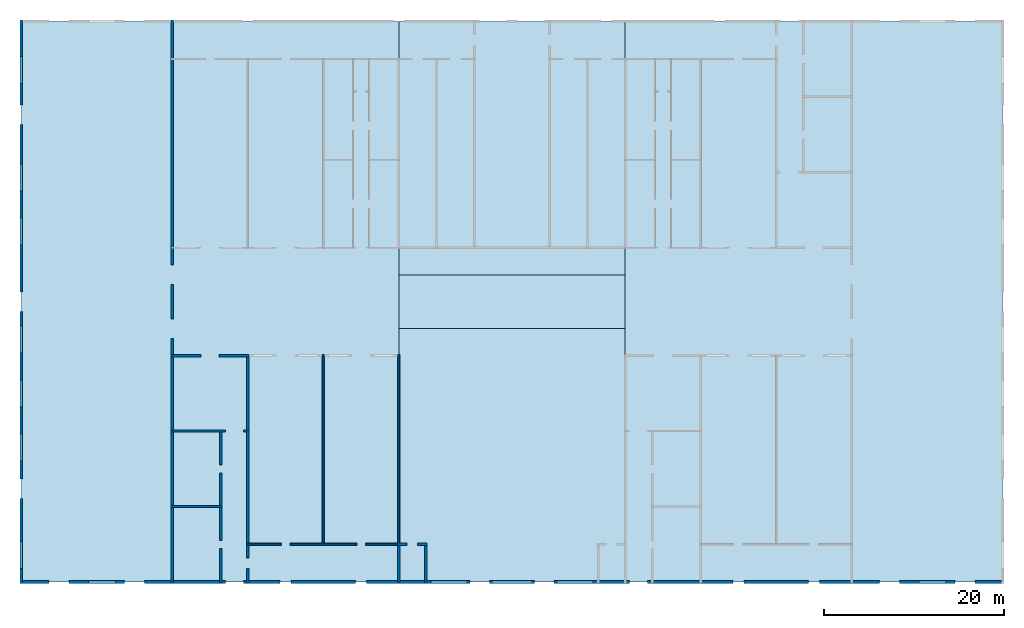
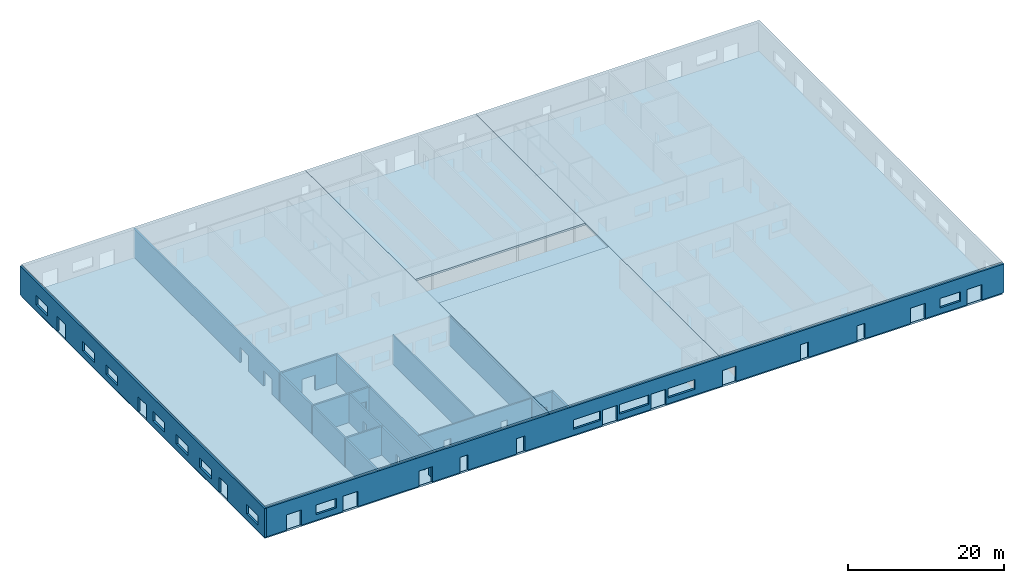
# One storey, part 1 of 3: 14 walls, 5 slabs, 52 openings.
"""IFC4 building model written with IfcOpenShell, lengths in millimetres."""

from ifc_helpers import new_model, si_unit, frame, origin_with_axes, place, context, subcontext, project, spatial, indexed_curve, outline, extrude, type_object, element, save


model = new_model("IFC4")

# Units and contexts
model_context = context("Model", 3, precision=1e-05, world=origin_with_axes())
body_context = subcontext(model_context, "Body", "Model", "MODEL_VIEW")
ifc_project = project(units=[si_unit("AREAUNIT", "SQUARE_METRE"), si_unit("VOLUMEUNIT", "CUBIC_METRE"), si_unit("LENGTHUNIT", "METRE", prefix="MILLI")], contexts=[model_context])

# Site, building, storey
site = spatial("IfcSite", under=ifc_project, Name="PIN 00000000 (sample)")
building = spatial("IfcBuilding", under=site, Name="Sample Shopping Mall")
storey = spatial("IfcBuildingStorey", under=building, Name="Ground Floor", Elevation=0.0)

# Slabs
slab_1_placement = place(None, frame((0.0, 0.0, -300.0), z_axis=(0.0, 0.0, 1.0), x_axis=(1.0, 0.0, 0.0)))
element("IfcSlab", 1, at=slab_1_placement, inside=storey, Name="Ground slab", PredefinedType="FLOOR", context=body_context, shape_type="SweptSolid", body=[
    extrude(outline(indexed_curve([(5400.0, 15600.0), (114599.99999999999, 15600.0), (114599.99999999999, 78000.0), (5400.0, 78000.0)])), None, (0.0, 0.0, 1.0), 300.0),
])
slab_2_placement = place(None, frame((0.0, 0.0, 4500.0), z_axis=(0.0, 0.0, 1.0), x_axis=(1.0, 0.0, 0.0)))
element("IfcSlab", 2, at=slab_2_placement, inside=storey, Name="Roof slab 0", PredefinedType="ROOF", context=body_context, shape_type="SweptSolid", body=[
    extrude(outline(indexed_curve([(5400.0, 15600.0), (47400.0, 15600.0), (47400.0, 78000.0), (5400.0, 78000.0)])), None, (0.0, 0.0, 1.0), 300.0),
])
slab_3_placement = place(None, frame((0.0, 0.0, 4500.0), z_axis=(0.0, 0.0, 1.0), x_axis=(1.0, 0.0, 0.0)))
element("IfcSlab", 3, at=slab_3_placement, inside=storey, Name="Roof slab 1", PredefinedType="ROOF", context=body_context, shape_type="SweptSolid", body=[
    extrude(outline(indexed_curve([(72600.0, 15600.0), (114599.99999999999, 15600.0), (114599.99999999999, 78000.0), (72600.0, 78000.0)])), None, (0.0, 0.0, 1.0), 300.0),
])
slab_4_placement = place(None, frame((0.0, 0.0, 4500.0), z_axis=(0.0, 0.0, 1.0), x_axis=(1.0, 0.0, 0.0)))
element("IfcSlab", 4, at=slab_4_placement, inside=storey, Name="Roof slab 2", PredefinedType="ROOF", context=body_context, shape_type="SweptSolid", body=[
    extrude(outline(indexed_curve([(47400.0, 15600.0), (72600.0, 15600.0), (72600.0, 43799.99999999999), (47400.0, 43799.99999999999)])), None, (0.0, 0.0, 1.0), 300.0),
])
slab_5_placement = place(None, frame((0.0, 0.0, 4500.0), z_axis=(0.0, 0.0, 1.0), x_axis=(1.0, 0.0, 0.0)))
element("IfcSlab", 5, at=slab_5_placement, inside=storey, Name="Roof slab 3", PredefinedType="ROOF", context=body_context, shape_type="SweptSolid", body=[
    extrude(outline(indexed_curve([(47400.0, 49799.99999999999), (72600.0, 49799.99999999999), (72600.0, 78000.0), (47400.0, 78000.0)])), None, (0.0, 0.0, 1.0), 300.0),
])

# Wall, openings
wall_type_1 = type_object("IfcWallType", Name="WT-300", PredefinedType="SOLIDWALL")
wall_1_placement = place(None, frame((5250.0, 15449.999999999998, 0.0), z_axis=(0.0, 0.0, 1.0), x_axis=(1.0, 0.0, 0.0)))
wall_1 = element("IfcWall", 6, at=wall_1_placement, inside=storey, type_object=wall_type_1, Name="W0", context=body_context, shape_type="SweptSolid", body=[
    extrude(outline(indexed_curve([(0.0, 0.0), (0.0, 300.0), (109499.99999999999, 300.0), (109499.99999999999, 0.0), (0.0, 0.0)], self_intersect=False)), origin_with_axes(), (0.0, 0.0, 1.0), 4500.0),
])
opening_1_placement = place(wall_1_placement, frame((50049.99999999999, -99.99999999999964, 0.0), z_axis=(0.0, 0.0, 1.0), x_axis=(1.0, 0.0, 0.0)))
element("IfcOpeningElement", 7, at=opening_1_placement, cuts=wall_1, Name="D03-opening", context=body_context, shape_type="SweptSolid", body=[
    extrude(outline(indexed_curve([(0.0, 0.0), (0.0, 500.0), (1100.0, 500.0), (1100.0, 0.0), (0.0, 0.0)], self_intersect=False)), origin_with_axes(), (0.0, 0.0, 1.0), 2400.0),
])
opening_2_placement = place(wall_1_placement, frame((51150.0, -99.99999999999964, 0.0), z_axis=(0.0, 0.0, 1.0), x_axis=(1.0, 0.0, 0.0)))
element("IfcOpeningElement", 8, at=opening_2_placement, cuts=wall_1, Name="-opening", context=body_context, shape_type="SweptSolid", body=[
    extrude(outline(indexed_curve([(0.0, 0.0), (0.0, 500.0), (1100.0, 500.0), (1100.0, 0.0), (0.0, 0.0)], self_intersect=False)), origin_with_axes(), (0.0, 0.0, 1.0), 2400.0),
])
opening_3_placement = place(wall_1_placement, frame((57250.0, -99.99999999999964, 0.0), z_axis=(0.0, 0.0, 1.0), x_axis=(1.0, 0.0, 0.0)))
element("IfcOpeningElement", 9, at=opening_3_placement, cuts=wall_1, Name="D04-opening", context=body_context, shape_type="SweptSolid", body=[
    extrude(outline(indexed_curve([(0.0, 0.0), (0.0, 500.0), (1100.0, 500.0), (1100.0, 0.0), (0.0, 0.0)], self_intersect=False)), origin_with_axes(), (0.0, 0.0, 1.0), 2400.0),
])
opening_4_placement = place(wall_1_placement, frame((58350.0, -99.99999999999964, 0.0), z_axis=(0.0, 0.0, 1.0), x_axis=(1.0, 0.0, 0.0)))
element("IfcOpeningElement", 10, at=opening_4_placement, cuts=wall_1, Name="-opening", context=body_context, shape_type="SweptSolid", body=[
    extrude(outline(indexed_curve([(0.0, 0.0), (0.0, 500.0), (1100.0, 500.0), (1100.0, 0.0), (0.0, 0.0)], self_intersect=False)), origin_with_axes(), (0.0, 0.0, 1.0), 2400.0),
])
opening_5_placement = place(wall_1_placement, frame((3250.0, -99.99999999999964, 0.0), z_axis=(0.0, 0.0, 1.0), x_axis=(1.0, 0.0, 0.0)))
element("IfcOpeningElement", 11, at=opening_5_placement, cuts=wall_1, Name="D10-opening", context=body_context, shape_type="SweptSolid", body=[
    extrude(outline(indexed_curve([(0.0, 0.0), (0.0, 500.0), (1100.0, 500.0), (1100.0, 0.0), (0.0, 0.0)], self_intersect=False)), origin_with_axes(), (0.0, 0.0, 1.0), 2400.0),
])
opening_6_placement = place(wall_1_placement, frame((4350.000000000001, -99.99999999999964, 0.0), z_axis=(0.0, 0.0, 1.0), x_axis=(1.0, 0.0, 0.0)))
element("IfcOpeningElement", 12, at=opening_6_placement, cuts=wall_1, Name="-opening", context=body_context, shape_type="SweptSolid", body=[
    extrude(outline(indexed_curve([(0.0, 0.0), (0.0, 500.0), (1100.0, 500.0), (1100.0, 0.0), (0.0, 0.0)], self_intersect=False)), origin_with_axes(), (0.0, 0.0, 1.0), 2400.0),
])
opening_7_placement = place(wall_1_placement, frame((11649.999999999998, -99.99999999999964, 0.0), z_axis=(0.0, 0.0, 1.0), x_axis=(1.0, 0.0, 0.0)))
element("IfcOpeningElement", 13, at=opening_7_placement, cuts=wall_1, Name="D11-opening", context=body_context, shape_type="SweptSolid", body=[
    extrude(outline(indexed_curve([(0.0, 0.0), (0.0, 500.0), (1100.0, 500.0), (1100.0, 0.0), (0.0, 0.0)], self_intersect=False)), origin_with_axes(), (0.0, 0.0, 1.0), 2400.0),
])
opening_8_placement = place(wall_1_placement, frame((12750.0, -99.99999999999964, 0.0), z_axis=(0.0, 0.0, 1.0), x_axis=(1.0, 0.0, 0.0)))
element("IfcOpeningElement", 14, at=opening_8_placement, cuts=wall_1, Name="-opening", context=body_context, shape_type="SweptSolid", body=[
    extrude(outline(indexed_curve([(0.0, 0.0), (0.0, 500.0), (1100.0, 500.0), (1100.0, 0.0), (0.0, 0.0)], self_intersect=False)), origin_with_axes(), (0.0, 0.0, 1.0), 2400.0),
])
opening_9_placement = place(wall_1_placement, frame((95650.0, -99.99999999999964, 0.0), z_axis=(0.0, 0.0, 1.0), x_axis=(1.0, 0.0, 0.0)))
element("IfcOpeningElement", 15, at=opening_9_placement, cuts=wall_1, Name="D19-opening", context=body_context, shape_type="SweptSolid", body=[
    extrude(outline(indexed_curve([(0.0, 0.0), (0.0, 500.0), (1100.0, 500.0), (1100.0, 0.0), (0.0, 0.0)], self_intersect=False)), origin_with_axes(), (0.0, 0.0, 1.0), 2400.0),
])
opening_10_placement = place(wall_1_placement, frame((96750.0, -99.99999999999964, 0.0), z_axis=(0.0, 0.0, 1.0), x_axis=(1.0, 0.0, 0.0)))
element("IfcOpeningElement", 16, at=opening_10_placement, cuts=wall_1, Name="-opening", context=body_context, shape_type="SweptSolid", body=[
    extrude(outline(indexed_curve([(0.0, 0.0), (0.0, 500.0), (1100.0, 500.0), (1100.0, 0.0), (0.0, 0.0)], self_intersect=False)), origin_with_axes(), (0.0, 0.0, 1.0), 2400.0),
])
opening_11_placement = place(wall_1_placement, frame((104050.00000000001, -99.99999999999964, 0.0), z_axis=(0.0, 0.0, 1.0), x_axis=(1.0, 0.0, 0.0)))
element("IfcOpeningElement", 17, at=opening_11_placement, cuts=wall_1, Name="D20-opening", context=body_context, shape_type="SweptSolid", body=[
    extrude(outline(indexed_curve([(0.0, 0.0), (0.0, 500.0), (1100.0, 500.0), (1100.0, 0.0), (0.0, 0.0)], self_intersect=False)), origin_with_axes(), (0.0, 0.0, 1.0), 2400.0),
])
opening_12_placement = place(wall_1_placement, frame((105150.0, -99.99999999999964, 0.0), z_axis=(0.0, 0.0, 1.0), x_axis=(1.0, 0.0, 0.0)))
element("IfcOpeningElement", 18, at=opening_12_placement, cuts=wall_1, Name="-opening", context=body_context, shape_type="SweptSolid", body=[
    extrude(outline(indexed_curve([(0.0, 0.0), (0.0, 500.0), (1100.0, 500.0), (1100.0, 0.0), (0.0, 0.0)], self_intersect=False)), origin_with_axes(), (0.0, 0.0, 1.0), 2400.0),
])
opening_13_placement = place(wall_1_placement, frame((28950.000000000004, -99.99999999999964, 0.0), z_axis=(0.0, 0.0, 1.0), x_axis=(1.0, 0.0, 0.0)))
element("IfcOpeningElement", 19, at=opening_13_placement, cuts=wall_1, Name="D23-opening", context=body_context, shape_type="SweptSolid", body=[
    extrude(outline(indexed_curve([(0.0, 0.0), (0.0, 500.0), (1200.0, 500.0), (1200.0, 0.0), (0.0, 0.0)], self_intersect=False)), origin_with_axes(), (0.0, 0.0, 1.0), 2400.0),
])
opening_14_placement = place(wall_1_placement, frame((37350.0, -99.99999999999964, 0.0), z_axis=(0.0, 0.0, 1.0), x_axis=(1.0, 0.0, 0.0)))
element("IfcOpeningElement", 20, at=opening_14_placement, cuts=wall_1, Name="D24-opening", context=body_context, shape_type="SweptSolid", body=[
    extrude(outline(indexed_curve([(0.0, 0.0), (0.0, 500.0), (1200.0, 500.0), (1200.0, 0.0), (0.0, 0.0)], self_intersect=False)), origin_with_axes(), (0.0, 0.0, 1.0), 2400.0),
])
opening_15_placement = place(wall_1_placement, frame((79350.0, -99.99999999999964, 0.0), z_axis=(0.0, 0.0, 1.0), x_axis=(1.0, 0.0, 0.0)))
element("IfcOpeningElement", 21, at=opening_15_placement, cuts=wall_1, Name="D25-opening", context=body_context, shape_type="SweptSolid", body=[
    extrude(outline(indexed_curve([(0.0, 0.0), (0.0, 500.0), (1200.0, 500.0), (1200.0, 0.0), (0.0, 0.0)], self_intersect=False)), origin_with_axes(), (0.0, 0.0, 1.0), 2400.0),
])
opening_16_placement = place(wall_1_placement, frame((87750.0, -99.99999999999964, 0.0), z_axis=(0.0, 0.0, 1.0), x_axis=(1.0, 0.0, 0.0)))
element("IfcOpeningElement", 22, at=opening_16_placement, cuts=wall_1, Name="D26-opening", context=body_context, shape_type="SweptSolid", body=[
    extrude(outline(indexed_curve([(0.0, 0.0), (0.0, 500.0), (1200.0, 500.0), (1200.0, 0.0), (0.0, 0.0)], self_intersect=False)), origin_with_axes(), (0.0, 0.0, 1.0), 2400.0),
])
opening_17_placement = place(wall_1_placement, frame((22850.0, -99.99999999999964, 0.0), z_axis=(0.0, 0.0, 1.0), x_axis=(1.0, 0.0, 0.0)))
element("IfcOpeningElement", 23, at=opening_17_placement, cuts=wall_1, Name="D33-opening", context=body_context, shape_type="SweptSolid", body=[
    extrude(outline(indexed_curve([(0.0, 0.0), (0.0, 500.0), (1000.0, 500.0), (1000.0, 0.0), (0.0, 0.0)], self_intersect=False)), origin_with_axes(), (0.0, 0.0, 1.0), 2400.0),
])
opening_18_placement = place(wall_1_placement, frame((23850.0, -99.99999999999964, 0.0), z_axis=(0.0, 0.0, 1.0), x_axis=(1.0, 0.0, 0.0)))
element("IfcOpeningElement", 24, at=opening_18_placement, cuts=wall_1, Name="-opening", context=body_context, shape_type="SweptSolid", body=[
    extrude(outline(indexed_curve([(0.0, 0.0), (0.0, 500.0), (1000.0, 500.0), (1000.0, 0.0), (0.0, 0.0)], self_intersect=False)), origin_with_axes(), (0.0, 0.0, 1.0), 2400.0),
])
opening_19_placement = place(wall_1_placement, frame((67850.0, -99.99999999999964, 0.0), z_axis=(0.0, 0.0, 1.0), x_axis=(1.0, 0.0, 0.0)))
element("IfcOpeningElement", 25, at=opening_19_placement, cuts=wall_1, Name="D43-opening", context=body_context, shape_type="SweptSolid", body=[
    extrude(outline(indexed_curve([(0.0, 0.0), (0.0, 500.0), (1000.0, 500.0), (1000.0, 0.0), (0.0, 0.0)], self_intersect=False)), origin_with_axes(), (0.0, 0.0, 1.0), 2400.0),
])
opening_20_placement = place(wall_1_placement, frame((68850.0, -99.99999999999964, 0.0), z_axis=(0.0, 0.0, 1.0), x_axis=(1.0, 0.0, 0.0)))
element("IfcOpeningElement", 26, at=opening_20_placement, cuts=wall_1, Name="-opening", context=body_context, shape_type="SweptSolid", body=[
    extrude(outline(indexed_curve([(0.0, 0.0), (0.0, 500.0), (1000.0, 500.0), (1000.0, 0.0), (0.0, 0.0)], self_intersect=False)), origin_with_axes(), (0.0, 0.0, 1.0), 2400.0),
])
opening_21_placement = place(wall_1_placement, frame((45750.0, -99.99999999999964, 900.0), z_axis=(0.0, 0.0, 1.0), x_axis=(1.0, 0.0, 0.0)))
element("IfcOpeningElement", 27, at=opening_21_placement, cuts=wall_1, Name="-opening", context=body_context, shape_type="SweptSolid", body=[
    extrude(outline(indexed_curve([(0.0, 0.0), (0.0, 500.0), (4000.0, 500.0), (4000.0, 0.0), (0.0, 0.0)], self_intersect=False)), origin_with_axes(), (0.0, 0.0, 1.0), 1500.0),
])
opening_22_placement = place(wall_1_placement, frame((52549.99999999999, -99.99999999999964, 900.0), z_axis=(0.0, 0.0, 1.0), x_axis=(1.0, 0.0, 0.0)))
element("IfcOpeningElement", 28, at=opening_22_placement, cuts=wall_1, Name="-opening", context=body_context, shape_type="SweptSolid", body=[
    extrude(outline(indexed_curve([(0.0, 0.0), (0.0, 500.0), (4400.0, 500.0), (4400.0, 0.0), (0.0, 0.0)], self_intersect=False)), origin_with_axes(), (0.0, 0.0, 1.0), 1500.0),
])
opening_23_placement = place(wall_1_placement, frame((59750.0, -99.99999999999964, 900.0), z_axis=(0.0, 0.0, 1.0), x_axis=(1.0, 0.0, 0.0)))
element("IfcOpeningElement", 29, at=opening_23_placement, cuts=wall_1, Name="-opening", context=body_context, shape_type="SweptSolid", body=[
    extrude(outline(indexed_curve([(0.0, 0.0), (0.0, 500.0), (4000.0, 500.0), (4000.0, 0.0), (0.0, 0.0)], self_intersect=False)), origin_with_axes(), (0.0, 0.0, 1.0), 1500.0),
])
opening_24_placement = place(wall_1_placement, frame((7650.0, -99.99999999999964, 900.0), z_axis=(0.0, 0.0, 1.0), x_axis=(1.0, 0.0, 0.0)))
element("IfcOpeningElement", 30, at=opening_24_placement, cuts=wall_1, Name="-opening", context=body_context, shape_type="SweptSolid", body=[
    extrude(outline(indexed_curve([(0.0, 0.0), (0.0, 500.0), (3000.0, 500.0), (3000.0, 0.0), (0.0, 0.0)], self_intersect=False)), origin_with_axes(), (0.0, 0.0, 1.0), 1500.0),
])
opening_25_placement = place(wall_1_placement, frame((100050.00000000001, -99.99999999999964, 900.0), z_axis=(0.0, 0.0, 1.0), x_axis=(1.0, 0.0, 0.0)))
element("IfcOpeningElement", 31, at=opening_25_placement, cuts=wall_1, Name="-opening", context=body_context, shape_type="SweptSolid", body=[
    extrude(outline(indexed_curve([(0.0, 0.0), (0.0, 500.0), (3000.0, 500.0), (3000.0, 0.0), (0.0, 0.0)], self_intersect=False)), origin_with_axes(), (0.0, 0.0, 1.0), 1500.0),
])

wall_2_placement = place(None, frame((5550.000000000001, 15449.999999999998, 0.0), z_axis=(0.0, 0.0, 1.0), x_axis=(6.123233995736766e-17, 1.0, 0.0)))
wall_2 = element("IfcWall", 32, at=wall_2_placement, inside=storey, type_object=wall_type_1, Name="W30", context=body_context, shape_type="SweptSolid", body=[
    extrude(outline(indexed_curve([(0.0, 0.0), (0.0, 300.0), (62699.99999999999, 300.0), (62699.99999999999, 0.0), (0.0, 0.0)], self_intersect=False)), origin_with_axes(), (0.0, 0.0, 1.0), 4500.0),
])
opening_26_placement = place(wall_2_placement, frame((9450.0, -99.99999999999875, 0.0), z_axis=(0.0, 0.0, 1.0), x_axis=(1.0, 0.0, 0.0)))
element("IfcOpeningElement", 33, at=opening_26_placement, cuts=wall_2, Name="D07-opening", context=body_context, shape_type="SweptSolid", body=[
    extrude(outline(indexed_curve([(0.0, 0.0), (0.0, 500.0), (1100.0, 500.0), (1100.0, 0.0), (0.0, 0.0)], self_intersect=False)), origin_with_axes(), (0.0, 0.0, 1.0), 2400.0),
])
opening_27_placement = place(wall_2_placement, frame((10550.0, -99.99999999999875, 0.0), z_axis=(0.0, 0.0, 1.0), x_axis=(1.0, 0.0, 0.0)))
element("IfcOpeningElement", 34, at=opening_27_placement, cuts=wall_2, Name="-opening", context=body_context, shape_type="SweptSolid", body=[
    extrude(outline(indexed_curve([(0.0, 0.0), (0.0, 500.0), (1100.0, 500.0), (1100.0, 0.0), (0.0, 0.0)], self_intersect=False)), origin_with_axes(), (0.0, 0.0, 1.0), 2400.0),
])
opening_28_placement = place(wall_2_placement, frame((30250.000000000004, -99.99999999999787, 0.0), z_axis=(0.0, 0.0, 1.0), x_axis=(1.0, 0.0, 0.0)))
element("IfcOpeningElement", 35, at=opening_28_placement, cuts=wall_2, Name="D08-opening", context=body_context, shape_type="SweptSolid", body=[
    extrude(outline(indexed_curve([(0.0, 0.0), (0.0, 500.0), (1100.0, 500.0), (1100.0, 0.0), (0.0, 0.0)], self_intersect=False)), origin_with_axes(), (0.0, 0.0, 1.0), 2400.0),
])
opening_29_placement = place(wall_2_placement, frame((31349.999999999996, -99.99999999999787, 0.0), z_axis=(0.0, 0.0, 1.0), x_axis=(1.0, 0.0, 0.0)))
element("IfcOpeningElement", 36, at=opening_29_placement, cuts=wall_2, Name="-opening", context=body_context, shape_type="SweptSolid", body=[
    extrude(outline(indexed_curve([(0.0, 0.0), (0.0, 500.0), (1100.0, 500.0), (1100.0, 0.0), (0.0, 0.0)], self_intersect=False)), origin_with_axes(), (0.0, 0.0, 1.0), 2400.0),
])
opening_30_placement = place(wall_2_placement, frame((51049.99999999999, -99.99999999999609, 0.0), z_axis=(0.0, 0.0, 1.0), x_axis=(1.0, 0.0, 0.0)))
element("IfcOpeningElement", 37, at=opening_30_placement, cuts=wall_2, Name="D09-opening", context=body_context, shape_type="SweptSolid", body=[
    extrude(outline(indexed_curve([(0.0, 0.0), (0.0, 500.0), (1100.0, 500.0), (1100.0, 0.0), (0.0, 0.0)], self_intersect=False)), origin_with_axes(), (0.0, 0.0, 1.0), 2400.0),
])
opening_31_placement = place(wall_2_placement, frame((52149.99999999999, -99.99999999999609, 0.0), z_axis=(0.0, 0.0, 1.0), x_axis=(1.0, 0.0, 0.0)))
element("IfcOpeningElement", 38, at=opening_31_placement, cuts=wall_2, Name="-opening", context=body_context, shape_type="SweptSolid", body=[
    extrude(outline(indexed_curve([(0.0, 0.0), (0.0, 500.0), (1100.0, 500.0), (1100.0, 0.0), (0.0, 0.0)], self_intersect=False)), origin_with_axes(), (0.0, 0.0, 1.0), 2400.0),
])
opening_32_placement = place(wall_2_placement, frame((1650.000000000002, -99.99999999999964, 900.0), z_axis=(0.0, 0.0, 1.0), x_axis=(1.0, 0.0, 0.0)))
element("IfcOpeningElement", 39, at=opening_32_placement, cuts=wall_2, Name="-opening", context=body_context, shape_type="SweptSolid", body=[
    extrude(outline(indexed_curve([(0.0, 0.0), (0.0, 500.0), (3000.0, 500.0), (3000.0, 0.0), (0.0, 0.0)], self_intersect=False)), origin_with_axes(), (0.0, 0.0, 1.0), 1500.0),
])
opening_33_placement = place(wall_2_placement, frame((13650.000000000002, -99.99999999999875, 900.0), z_axis=(0.0, 0.0, 1.0), x_axis=(1.0, 0.0, 0.0)))
element("IfcOpeningElement", 40, at=opening_33_placement, cuts=wall_2, Name="-opening", context=body_context, shape_type="SweptSolid", body=[
    extrude(outline(indexed_curve([(0.0, 0.0), (0.0, 500.0), (3000.0, 500.0), (3000.0, 0.0), (0.0, 0.0)], self_intersect=False)), origin_with_axes(), (0.0, 0.0, 1.0), 1500.0),
])
opening_34_placement = place(wall_2_placement, frame((19650.0, -99.99999999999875, 900.0), z_axis=(0.0, 0.0, 1.0), x_axis=(1.0, 0.0, 0.0)))
element("IfcOpeningElement", 41, at=opening_34_placement, cuts=wall_2, Name="-opening", context=body_context, shape_type="SweptSolid", body=[
    extrude(outline(indexed_curve([(0.0, 0.0), (0.0, 500.0), (3000.0, 500.0), (3000.0, 0.0), (0.0, 0.0)], self_intersect=False)), origin_with_axes(), (0.0, 0.0, 1.0), 1500.0),
])
opening_35_placement = place(wall_2_placement, frame((25650.0, -99.99999999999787, 900.0), z_axis=(0.0, 0.0, 1.0), x_axis=(1.0, 0.0, 0.0)))
element("IfcOpeningElement", 42, at=opening_35_placement, cuts=wall_2, Name="-opening", context=body_context, shape_type="SweptSolid", body=[
    extrude(outline(indexed_curve([(0.0, 0.0), (0.0, 500.0), (3000.0, 500.0), (3000.0, 0.0), (0.0, 0.0)], self_intersect=False)), origin_with_axes(), (0.0, 0.0, 1.0), 1500.0),
])
opening_36_placement = place(wall_2_placement, frame((37650.00000000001, -99.99999999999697, 900.0), z_axis=(0.0, 0.0, 1.0), x_axis=(1.0, 0.0, 0.0)))
element("IfcOpeningElement", 43, at=opening_36_placement, cuts=wall_2, Name="-opening", context=body_context, shape_type="SweptSolid", body=[
    extrude(outline(indexed_curve([(0.0, 0.0), (0.0, 500.0), (3000.0, 500.0), (3000.0, 0.0), (0.0, 0.0)], self_intersect=False)), origin_with_axes(), (0.0, 0.0, 1.0), 1500.0),
])
opening_37_placement = place(wall_2_placement, frame((43650.00000000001, -99.99999999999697, 900.0), z_axis=(0.0, 0.0, 1.0), x_axis=(1.0, 0.0, 0.0)))
element("IfcOpeningElement", 44, at=opening_37_placement, cuts=wall_2, Name="-opening", context=body_context, shape_type="SweptSolid", body=[
    extrude(outline(indexed_curve([(0.0, 0.0), (0.0, 500.0), (3000.0, 500.0), (3000.0, 0.0), (0.0, 0.0)], self_intersect=False)), origin_with_axes(), (0.0, 0.0, 1.0), 1500.0),
])
opening_38_placement = place(wall_2_placement, frame((55650.00000000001, -99.99999999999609, 900.0), z_axis=(0.0, 0.0, 1.0), x_axis=(1.0, 0.0, 0.0)))
element("IfcOpeningElement", 45, at=opening_38_placement, cuts=wall_2, Name="-opening", context=body_context, shape_type="SweptSolid", body=[
    extrude(outline(indexed_curve([(0.0, 0.0), (0.0, 500.0), (3000.0, 500.0), (3000.0, 0.0), (0.0, 0.0)], self_intersect=False)), origin_with_axes(), (0.0, 0.0, 1.0), 1500.0),
])

wall_type_2 = type_object("IfcWallType", Name="WT-200", PredefinedType="SOLIDWALL")
wall_3_placement = place(None, frame((30500.0, 19700.0, 0.0), z_axis=(0.0, 0.0, 1.0), x_axis=(1.0, 0.0, 0.0)))
wall_3 = element("IfcWall", 46, at=wall_3_placement, inside=storey, type_object=wall_type_2, Name="W1", context=body_context, shape_type="SweptSolid", body=[
    extrude(outline(indexed_curve([(0.0, 0.0), (0.0, 200.0), (16999.999999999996, 200.0), (16999.999999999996, 0.0), (0.0, 0.0)], self_intersect=False)), origin_with_axes(), (0.0, 0.0, 1.0), 4500.0),
])
opening_39_placement = place(wall_3_placement, frame((3800.000000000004, -99.99999999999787, 0.0), z_axis=(0.0, 0.0, 1.0), x_axis=(1.0, 0.0, 0.0)))
element("IfcOpeningElement", 47, at=opening_39_placement, cuts=wall_3, Name="-opening", context=body_context, shape_type="SweptSolid", body=[
    extrude(outline(indexed_curve([(0.0, 0.0), (0.0, 400.0), (1000.0, 400.0), (1000.0, 0.0), (0.0, 0.0)], self_intersect=False)), origin_with_axes(), (0.0, 0.0, 1.0), 2400.0),
])
opening_40_placement = place(wall_3_placement, frame((12200.000000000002, -99.99999999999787, 0.0), z_axis=(0.0, 0.0, 1.0), x_axis=(1.0, 0.0, 0.0)))
element("IfcOpeningElement", 48, at=opening_40_placement, cuts=wall_3, Name="-opening", context=body_context, shape_type="SweptSolid", body=[
    extrude(outline(indexed_curve([(0.0, 0.0), (0.0, 400.0), (1000.0, 400.0), (1000.0, 0.0), (0.0, 0.0)], self_intersect=False)), origin_with_axes(), (0.0, 0.0, 1.0), 2400.0),
])

# Walls
for number, where, z_axis, x_axis, name in (
    (49, (39100.0, 19700.0, 0.0), (0.0, 0.0, 1.0), (6.123233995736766e-17, 1.0, 0.0), "W35"),
    (50, (47500.0, 19700.0, 0.0), (0.0, 0.0, 1.0), (6.123233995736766e-17, 1.0, 0.0), "W40"),
):
    element("IfcWall", number, at=place(None, frame(where, z_axis=z_axis, x_axis=x_axis)), inside=storey, type_object=wall_type_2, Name=name, context=body_context, shape_type="SweptSolid", body=[
        extrude(outline(indexed_curve([(0.0, 0.0), (0.0, 200.0), (21199.999999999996, 200.0), (21199.999999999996, 0.0), (0.0, 0.0)], self_intersect=False)), origin_with_axes(), (0.0, 0.0, 1.0), 4500.0),
    ])

# Wall, opening
wall_type_3 = type_object("IfcWallType", Name="WT-250", PredefinedType="SOLIDWALL")
wall_4_placement = place(None, frame((47275.0, 19675.0, 0.0), z_axis=(0.0, 0.0, 1.0), x_axis=(1.0, 0.0, 0.0)))
wall_4 = element("IfcWall", 51, at=wall_4_placement, inside=storey, type_object=wall_type_3, Name="W2", context=body_context, shape_type="SweptSolid", body=[
    extrude(outline(indexed_curve([(0.0, 0.0), (0.0, 250.0), (3250.0, 250.0), (3250.0, 0.0), (0.0, 0.0)], self_intersect=False)), origin_with_axes(), (0.0, 0.0, 1.0), 4500.0),
])
opening_41_placement = place(wall_4_placement, frame((1024.9999999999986, -100.00000000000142, 0.0), z_axis=(0.0, 0.0, 1.0), x_axis=(1.0, 0.0, 0.0)))
element("IfcOpeningElement", 52, at=opening_41_placement, cuts=wall_4, Name="D01-opening", context=body_context, shape_type="SweptSolid", body=[
    extrude(outline(indexed_curve([(0.0, 0.0), (0.0, 450.0), (1200.0, 450.0), (1200.0, 0.0), (0.0, 0.0)], self_intersect=False)), origin_with_axes(), (0.0, 0.0, 1.0), 2400.0),
])

# Wall
wall_5_placement = place(None, frame((22075.0, 23875.0, 0.0), z_axis=(0.0, 0.0, 1.0), x_axis=(1.0, 0.0, 0.0)))
element("IfcWall", 53, at=wall_5_placement, inside=storey, type_object=wall_type_3, Name="W5", context=body_context, shape_type="SweptSolid", body=[
    extrude(outline(indexed_curve([(0.0, 0.0), (0.0, 250.0), (5650.000000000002, 250.0), (5650.000000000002, 0.0), (0.0, 0.0)], self_intersect=False)), origin_with_axes(), (0.0, 0.0, 1.0), 4500.0),
])

# Wall, openings
wall_6_placement = place(None, frame((22075.0, 32274.999999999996, 0.0), z_axis=(0.0, 0.0, 1.0), x_axis=(1.0, 0.0, 0.0)))
wall_6 = element("IfcWall", 54, at=wall_6_placement, inside=storey, type_object=wall_type_3, Name="W7", context=body_context, shape_type="SweptSolid", body=[
    extrude(outline(indexed_curve([(0.0, 0.0), (0.0, 250.0), (8650.000000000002, 250.0), (8650.000000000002, 0.0), (0.0, 0.0)], self_intersect=False)), origin_with_axes(), (0.0, 0.0, 1.0), 4500.0),
])
opening_42_placement = place(wall_6_placement, frame((6025.000000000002, -100.00000000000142, 0.0), z_axis=(0.0, 0.0, 1.0), x_axis=(1.0, 0.0, 0.0)))
element("IfcOpeningElement", 55, at=opening_42_placement, cuts=wall_6, Name="D32-opening", context=body_context, shape_type="SweptSolid", body=[
    extrude(outline(indexed_curve([(0.0, 0.0), (0.0, 450.0), (1000.0, 450.0), (1000.0, 0.0), (0.0, 0.0)], self_intersect=False)), origin_with_axes(), (0.0, 0.0, 1.0), 2400.0),
])
opening_43_placement = place(wall_6_placement, frame((7025.000000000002, -100.00000000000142, 0.0), z_axis=(0.0, 0.0, 1.0), x_axis=(1.0, 0.0, 0.0)))
element("IfcOpeningElement", 56, at=opening_43_placement, cuts=wall_6, Name="-opening", context=body_context, shape_type="SweptSolid", body=[
    extrude(outline(indexed_curve([(0.0, 0.0), (0.0, 450.0), (1000.0, 450.0), (1000.0, 0.0), (0.0, 0.0)], self_intersect=False)), origin_with_axes(), (0.0, 0.0, 1.0), 2400.0),
])

wall_7_placement = place(None, frame((22075.0, 40674.99999999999, 0.0), z_axis=(0.0, 0.0, 1.0), x_axis=(1.0, 0.0, 0.0)))
wall_7 = element("IfcWall", 57, at=wall_7_placement, inside=storey, type_object=wall_type_3, Name="W9", context=body_context, shape_type="SweptSolid", body=[
    extrude(outline(indexed_curve([(0.0, 0.0), (0.0, 250.0), (8650.000000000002, 250.0), (8650.000000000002, 0.0), (0.0, 0.0)], self_intersect=False)), origin_with_axes(), (0.0, 0.0, 1.0), 4500.0),
])
opening_44_placement = place(wall_7_placement, frame((3324.999999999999, -99.99999999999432, 0.0), z_axis=(0.0, 0.0, 1.0), x_axis=(1.0, 0.0, 0.0)))
element("IfcOpeningElement", 58, at=opening_44_placement, cuts=wall_7, Name="D31-opening", context=body_context, shape_type="SweptSolid", body=[
    extrude(outline(indexed_curve([(0.0, 0.0), (0.0, 450.0), (1000.0, 450.0), (1000.0, 0.0), (0.0, 0.0)], self_intersect=False)), origin_with_axes(), (0.0, 0.0, 1.0), 2400.0),
])
opening_45_placement = place(wall_7_placement, frame((4324.999999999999, -99.99999999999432, 0.0), z_axis=(0.0, 0.0, 1.0), x_axis=(1.0, 0.0, 0.0)))
element("IfcOpeningElement", 59, at=opening_45_placement, cuts=wall_7, Name="-opening", context=body_context, shape_type="SweptSolid", body=[
    extrude(outline(indexed_curve([(0.0, 0.0), (0.0, 450.0), (1000.0, 450.0), (1000.0, 0.0), (0.0, 0.0)], self_intersect=False)), origin_with_axes(), (0.0, 0.0, 1.0), 2400.0),
])

wall_8_placement = place(None, frame((22325.0, 15475.0, 0.0), z_axis=(0.0, 0.0, 1.0), x_axis=(6.123233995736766e-17, 1.0, 0.0)))
wall_8 = element("IfcWall", 60, at=wall_8_placement, inside=storey, type_object=wall_type_3, Name="W31", context=body_context, shape_type="SweptSolid", body=[
    extrude(outline(indexed_curve([(0.0, 0.0), (0.0, 250.0), (62650.0, 250.0), (62650.0, 0.0), (0.0, 0.0)], self_intersect=False)), origin_with_axes(), (0.0, 0.0, 1.0), 4500.0),
])
opening_46_placement = place(wall_8_placement, frame((27225.0, -99.99999999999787, 0.0), z_axis=(0.0, 0.0, 1.0), x_axis=(1.0, 0.0, 0.0)))
element("IfcOpeningElement", 61, at=opening_46_placement, cuts=wall_8, Name="D05-opening", context=body_context, shape_type="SweptSolid", body=[
    extrude(outline(indexed_curve([(0.0, 0.0), (0.0, 450.0), (1100.0, 450.0), (1100.0, 0.0), (0.0, 0.0)], self_intersect=False)), origin_with_axes(), (0.0, 0.0, 1.0), 2400.0),
])
opening_47_placement = place(wall_8_placement, frame((28324.999999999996, -99.99999999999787, 0.0), z_axis=(0.0, 0.0, 1.0), x_axis=(1.0, 0.0, 0.0)))
element("IfcOpeningElement", 62, at=opening_47_placement, cuts=wall_8, Name="-opening", context=body_context, shape_type="SweptSolid", body=[
    extrude(outline(indexed_curve([(0.0, 0.0), (0.0, 450.0), (1100.0, 450.0), (1100.0, 0.0), (0.0, 0.0)], self_intersect=False)), origin_with_axes(), (0.0, 0.0, 1.0), 2400.0),
])
opening_48_placement = place(wall_8_placement, frame((33225.0, -99.99999999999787, 0.0), z_axis=(0.0, 0.0, 1.0), x_axis=(1.0, 0.0, 0.0)))
element("IfcOpeningElement", 63, at=opening_48_placement, cuts=wall_8, Name="D06-opening", context=body_context, shape_type="SweptSolid", body=[
    extrude(outline(indexed_curve([(0.0, 0.0), (0.0, 450.0), (1100.0, 450.0), (1100.0, 0.0), (0.0, 0.0)], self_intersect=False)), origin_with_axes(), (0.0, 0.0, 1.0), 2400.0),
])
opening_49_placement = place(wall_8_placement, frame((34325.0, -99.99999999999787, 0.0), z_axis=(0.0, 0.0, 1.0), x_axis=(1.0, 0.0, 0.0)))
element("IfcOpeningElement", 64, at=opening_49_placement, cuts=wall_8, Name="-opening", context=body_context, shape_type="SweptSolid", body=[
    extrude(outline(indexed_curve([(0.0, 0.0), (0.0, 450.0), (1100.0, 450.0), (1100.0, 0.0), (0.0, 0.0)], self_intersect=False)), origin_with_axes(), (0.0, 0.0, 1.0), 2400.0),
])

wall_9_placement = place(None, frame((27725.0, 15475.0, 0.0), z_axis=(0.0, 0.0, 1.0), x_axis=(6.123233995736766e-17, 1.0, 0.0)))
wall_9 = element("IfcWall", 65, at=wall_9_placement, inside=storey, type_object=wall_type_3, Name="W32", context=body_context, shape_type="SweptSolid", body=[
    extrude(outline(indexed_curve([(0.0, 0.0), (0.0, 250.0), (17049.999999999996, 250.0), (17049.999999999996, 0.0), (0.0, 0.0)], self_intersect=False)), origin_with_axes(), (0.0, 0.0, 1.0), 4500.0),
])
opening_50_placement = place(wall_9_placement, frame((12274.999999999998, -100.00000000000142, 0.0), z_axis=(0.0, 0.0, 1.0), x_axis=(1.0, 0.0, 0.0)))
element("IfcOpeningElement", 66, at=opening_50_placement, cuts=wall_9, Name="-opening", context=body_context, shape_type="SweptSolid", body=[
    extrude(outline(indexed_curve([(0.0, 0.0), (0.0, 450.0), (900.0, 450.0), (900.0, 0.0), (0.0, 0.0)], self_intersect=False)), origin_with_axes(), (0.0, 0.0, 1.0), 2400.0),
])
opening_51_placement = place(wall_9_placement, frame((3875.0, -100.00000000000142, 0.0), z_axis=(0.0, 0.0, 1.0), x_axis=(1.0, 0.0, 0.0)))
element("IfcOpeningElement", 67, at=opening_51_placement, cuts=wall_9, Name="-opening", context=body_context, shape_type="SweptSolid", body=[
    extrude(outline(indexed_curve([(0.0, 0.0), (0.0, 450.0), (900.0, 450.0), (900.0, 0.0), (0.0, 0.0)], self_intersect=False)), origin_with_axes(), (0.0, 0.0, 1.0), 2400.0),
])

# Wall, opening
wall_10_placement = place(None, frame((30725.0, 15475.0, 0.0), z_axis=(0.0, 0.0, 1.0), x_axis=(6.123233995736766e-17, 1.0, 0.0)))
wall_10 = element("IfcWall", 68, at=wall_10_placement, inside=storey, type_object=wall_type_3, Name="W33", context=body_context, shape_type="SweptSolid", body=[
    extrude(outline(indexed_curve([(0.0, 0.0), (0.0, 250.0), (25449.999999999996, 250.0), (25449.999999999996, 0.0), (0.0, 0.0)], self_intersect=False)), origin_with_axes(), (0.0, 0.0, 1.0), 4500.0),
])
opening_52_placement = place(wall_10_placement, frame((1625.0000000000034, -100.00000000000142, 0.0), z_axis=(0.0, 0.0, 1.0), x_axis=(1.0, 0.0, 0.0)))
element("IfcOpeningElement", 69, at=opening_52_placement, cuts=wall_10, Name="-opening", context=body_context, shape_type="SweptSolid", body=[
    extrude(outline(indexed_curve([(0.0, 0.0), (0.0, 450.0), (1200.0, 450.0), (1200.0, 0.0), (0.0, 0.0)], self_intersect=False)), origin_with_axes(), (0.0, 0.0, 1.0), 2400.0),
])

# Walls
for number, where, z_axis, x_axis, name in (
    (70, (47525.0, 15475.0, 0.0), (0.0, 0.0, 1.0), (6.123233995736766e-17, 1.0, 0.0), "W39"),
    (71, (50525.0, 15475.0, 0.0), (0.0, 0.0, 1.0), (6.123233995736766e-17, 1.0, 0.0), "W42"),
):
    element("IfcWall", number, at=place(None, frame(where, z_axis=z_axis, x_axis=x_axis)), inside=storey, type_object=wall_type_3, Name=name, context=body_context, shape_type="SweptSolid", body=[
        extrude(outline(indexed_curve([(0.0, 0.0), (0.0, 250.0), (4450.000000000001, 250.0), (4450.000000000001, 0.0), (0.0, 0.0)], self_intersect=False)), origin_with_axes(), (0.0, 0.0, 1.0), 4500.0),
    ])

save(model, "model.ifc")
